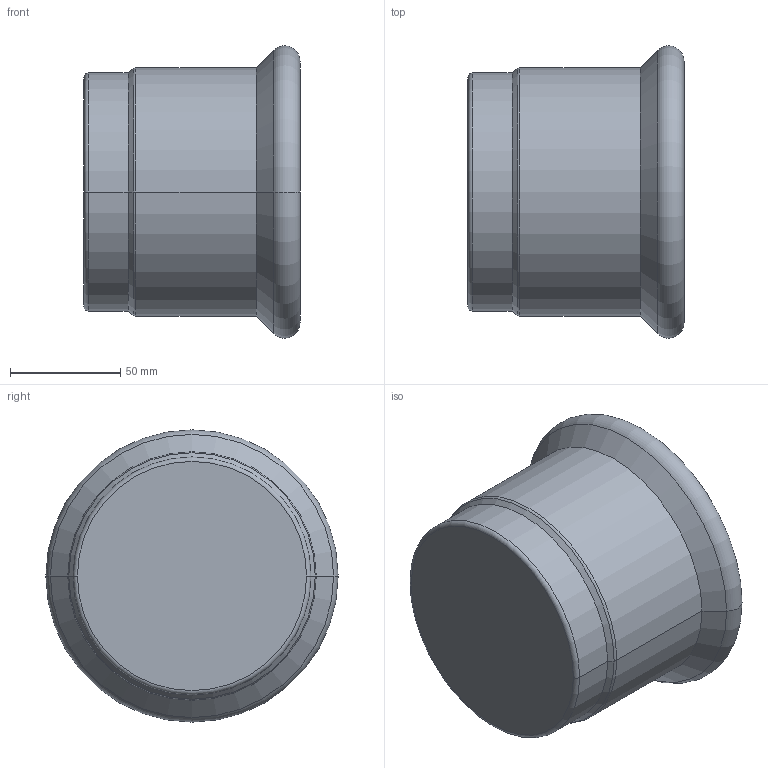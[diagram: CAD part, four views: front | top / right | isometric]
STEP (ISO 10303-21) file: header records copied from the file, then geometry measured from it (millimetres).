
FILE_DESCRIPTION(('CoCreate Modeling STEP Export'),'2;1');
FILE_NAME('C1429 108.stp','2014-11-12T16:12:46',(''),(''),'CoCreate Modeling STEP processor for AP214 (Solid Model)','CoCreate Modeling 17.00A 17-Jun-2010 (C) Parametric Technology GmbH','');
FILE_SCHEMA(('AUTOMOTIVE_DESIGN { 1 0 10303 214 1 1 1 1 }'));
Length unit declared in the file: millimetre
Products named in the file (2): C1429_108
Assembly tree (1 placements, depth 2):
  C1429_108
    C1429_108
Bounding box: 98 x 132.58 x 132.58 mm (x, y, z)
Volume: 138261.1 mm3; surface area: 90964.2 mm2
Topology: 1 solids, 1 shells, 27 faces, 53 edges, 31 vertices
Faces by surface type: cylinder 10, torus 8, plane 5, cone 4
Entity records: 612 total; most frequent: ORIENTED_EDGE 106, DIRECTION 96, CARTESIAN_POINT 86, EDGE_CURVE 53, AXIS2_PLACEMENT_3D 41, VERTEX_POINT 31, EDGE_LOOP 30, FACE_OUTER_BOUND 27
